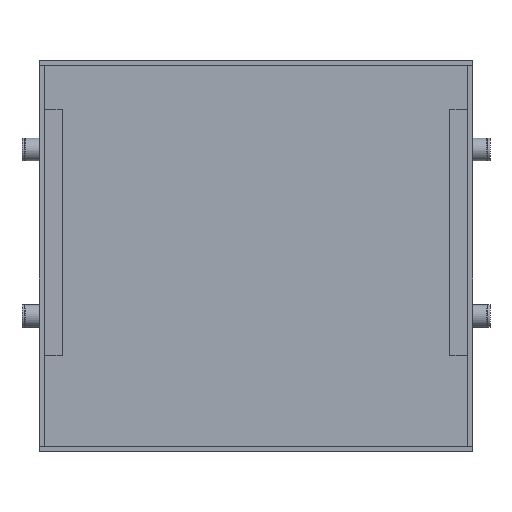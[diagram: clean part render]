
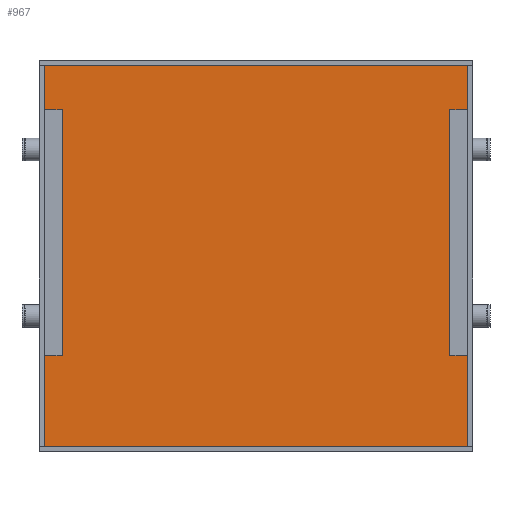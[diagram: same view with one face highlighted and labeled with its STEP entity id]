
A CAD part, top view. The second image highlights one B-rep face of the part: STEP entity #967.
In plain terms, the highlighted planar face has unit normal (0, 0, 1).
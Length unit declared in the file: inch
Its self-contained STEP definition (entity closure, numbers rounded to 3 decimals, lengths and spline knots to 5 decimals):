
#412=CARTESIAN_POINT('',(6.75496,-0.08394,0.08));
#413=VERTEX_POINT('',#412);
#564=CARTESIAN_POINT('',(0.08004,-6.09496,0.08));
#565=VERTEX_POINT('',#564);
#573=CARTESIAN_POINT('',(0.08004,-6.09106,0.08));
#574=VERTEX_POINT('',#573);
#575=CARTESIAN_POINT('',(0.08004,-6.09106,0.08));
#576=DIRECTION('',(0.0,-1.0,0.0));
#577=VECTOR('',#576,0.0039);
#578=LINE('',#575,#577);
#579=EDGE_CURVE('',#574,#565,#578,.T.);
#638=CARTESIAN_POINT('',(6.75496,-6.09106,0.08));
#639=VERTEX_POINT('',#638);
#663=CARTESIAN_POINT('',(6.75496,-6.09106,0.08));
#664=DIRECTION('',(0.0,1.0,0.0));
#665=VECTOR('',#664,6.00713);
#666=LINE('',#663,#665);
#667=EDGE_CURVE('',#639,#413,#666,.T.);
#719=CARTESIAN_POINT('',(6.75496,-6.09496,0.08));
#720=VERTEX_POINT('',#719);
#745=CARTESIAN_POINT('',(6.75496,-6.09496,0.08));
#746=DIRECTION('',(0.0,1.0,0.0));
#747=VECTOR('',#746,0.0039);
#748=LINE('',#745,#747);
#749=EDGE_CURVE('',#720,#639,#748,.T.);
#799=CARTESIAN_POINT('',(6.75496,-0.08004,0.08));
#800=VERTEX_POINT('',#799);
#808=CARTESIAN_POINT('',(6.75496,-0.08394,0.08));
#809=DIRECTION('',(0.0,1.0,0.0));
#810=VECTOR('',#809,0.0039);
#811=LINE('',#808,#810);
#812=EDGE_CURVE('',#413,#800,#811,.T.);
#928=CARTESIAN_POINT('',(3.4175,-3.0875,0.08));
#929=DIRECTION('',(0.0,0.0,1.0));
#930=DIRECTION('',(1.0,0.0,0.0));
#931=AXIS2_PLACEMENT_3D('',#928,#929,#930);
#932=PLANE('',#931);
#933=ORIENTED_EDGE('',*,*,#749,.T.);
#934=ORIENTED_EDGE('',*,*,#667,.T.);
#935=ORIENTED_EDGE('',*,*,#812,.T.);
#936=CARTESIAN_POINT('',(0.08004,-0.08004,0.08));
#937=VERTEX_POINT('',#936);
#938=CARTESIAN_POINT('',(6.75496,-0.08004,0.08));
#939=DIRECTION('',(-1.0,0.0,0.0));
#940=VECTOR('',#939,6.67492);
#941=LINE('',#938,#940);
#942=EDGE_CURVE('',#800,#937,#941,.T.);
#943=ORIENTED_EDGE('',*,*,#942,.T.);
#944=CARTESIAN_POINT('',(0.08004,-0.08394,0.08));
#945=VERTEX_POINT('',#944);
#946=CARTESIAN_POINT('',(0.08004,-0.08004,0.08));
#947=DIRECTION('',(0.0,-1.0,0.0));
#948=VECTOR('',#947,0.0039);
#949=LINE('',#946,#948);
#950=EDGE_CURVE('',#937,#945,#949,.T.);
#951=ORIENTED_EDGE('',*,*,#950,.T.);
#952=CARTESIAN_POINT('',(0.08004,-0.08394,0.08));
#953=DIRECTION('',(0.0,-1.0,0.0));
#954=VECTOR('',#953,6.00713);
#955=LINE('',#952,#954);
#956=EDGE_CURVE('',#945,#574,#955,.T.);
#957=ORIENTED_EDGE('',*,*,#956,.T.);
#958=ORIENTED_EDGE('',*,*,#579,.T.);
#959=CARTESIAN_POINT('',(0.08004,-6.09496,0.08));
#960=DIRECTION('',(1.0,0.0,0.0));
#961=VECTOR('',#960,6.67492);
#962=LINE('',#959,#961);
#963=EDGE_CURVE('',#565,#720,#962,.T.);
#964=ORIENTED_EDGE('',*,*,#963,.T.);
#965=EDGE_LOOP('',(#933,#934,#935,#943,#951,#957,#958,#964));
#966=FACE_OUTER_BOUND('',#965,.T.);
#967=ADVANCED_FACE('',(#966),#932,.T.);
